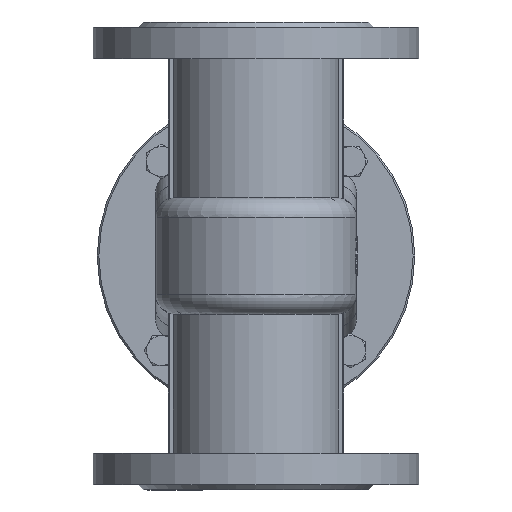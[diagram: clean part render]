
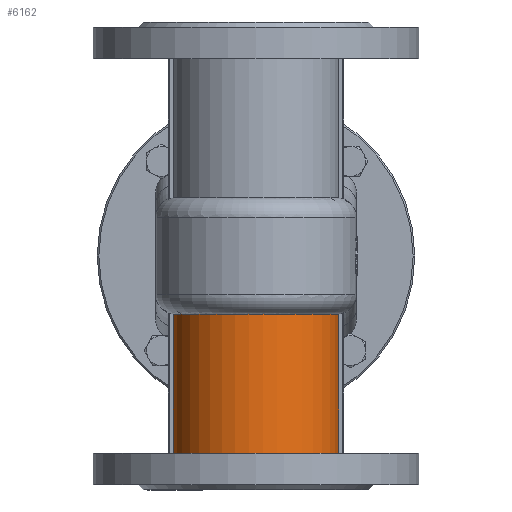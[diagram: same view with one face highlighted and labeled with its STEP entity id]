
A CAD part, front view. The second image highlights one B-rep face of the part: STEP entity #6162.
In plain terms, the highlighted cylindrical face has radius 50 mm (diameter 100 mm), a partial arc.
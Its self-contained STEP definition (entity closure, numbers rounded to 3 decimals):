
#6162=ADVANCED_FACE('',(#13253),#13255,.T.);
#13253=FACE_BOUND('',#13254,.T.);
#13254=EDGE_LOOP('',(#18432,#18433,#18434,#18435,#18436,#18437));
#13255=CYLINDRICAL_SURFACE('',#13256,50.);
#13256=AXIS2_PLACEMENT_3D('',#13257,#13258,#13259);
#13257=CARTESIAN_POINT('',(0.,0.,-119.));
#13258=DIRECTION('',(0.,0.,1.));
#13259=DIRECTION('',(-0.989,-0.15,0.));
#18432=ORIENTED_EDGE('',*,*,#20951,.F.);
#18433=ORIENTED_EDGE('',*,*,#20984,.T.);
#18434=ORIENTED_EDGE('',*,*,#20985,.T.);
#18435=ORIENTED_EDGE('',*,*,#20674,.T.);
#18436=ORIENTED_EDGE('',*,*,#20982,.F.);
#18437=ORIENTED_EDGE('',*,*,#20986,.F.);
#20674=EDGE_CURVE('',#23701,#23698,#23702,.T.);
#20951=EDGE_CURVE('',#24149,#24151,#24152,.F.);
#20982=EDGE_CURVE('',#24199,#23698,#24201,.T.);
#20984=EDGE_CURVE('',#24149,#24203,#24204,.T.);
#20985=EDGE_CURVE('',#24203,#23701,#24205,.T.);
#20986=EDGE_CURVE('',#24151,#24199,#24206,.T.);
#23698=VERTEX_POINT('',#41304);
#23701=VERTEX_POINT('',#41336);
#23702=CIRCLE('',#41337,50.);
#24149=VERTEX_POINT('',#43321);
#24151=VERTEX_POINT('',#43325);
#24152=CIRCLE('',#43326,50.);
#24199=VERTEX_POINT('',#43576);
#24201=LINE('',#43580,#43581);
#24203=VERTEX_POINT('',#43586);
#24204=LINE('',#43587,#43588);
#24205=LINE('',#43590,#43591);
#24206=LINE('',#43593,#43594);
#41304=CARTESIAN_POINT('',(-49.434,-7.5,-34.832));
#41336=CARTESIAN_POINT('',(49.434,-7.5,-34.832));
#41337=AXIS2_PLACEMENT_3D('',#41338,#41339,#41340);
#41338=CARTESIAN_POINT('',(0.,0.,-34.832));
#41339=DIRECTION('',(0.,0.,-1.));
#41340=DIRECTION('',(0.989,-0.15,0.));
#43321=CARTESIAN_POINT('',(49.434,-7.5,-118.));
#43325=CARTESIAN_POINT('',(-49.434,-7.5,-118.));
#43326=AXIS2_PLACEMENT_3D('',#43327,#43328,#43329);
#43327=CARTESIAN_POINT('',(0.,0.,-118.));
#43328=DIRECTION('',(0.,0.,1.));
#43329=DIRECTION('',(-0.989,-0.15,0.));
#43576=CARTESIAN_POINT('',(-49.434,-7.5,-35.));
#43580=CARTESIAN_POINT('',(-49.434,-7.5,-35.));
#43581=VECTOR('',#43582,1.);
#43582=DIRECTION('',(0.,0.,1.));
#43586=CARTESIAN_POINT('',(49.434,-7.5,-35.));
#43587=CARTESIAN_POINT('',(49.434,-7.5,-118.));
#43588=VECTOR('',#43589,1.);
#43589=DIRECTION('',(0.,0.,1.));
#43590=CARTESIAN_POINT('',(49.434,-7.5,-35.));
#43591=VECTOR('',#43592,1.);
#43592=DIRECTION('',(0.,0.,1.));
#43593=CARTESIAN_POINT('',(-49.434,-7.5,-118.));
#43594=VECTOR('',#43595,1.);
#43595=DIRECTION('',(0.,0.,1.));
